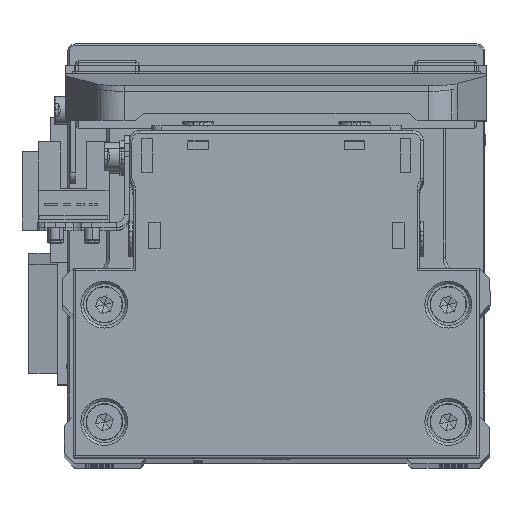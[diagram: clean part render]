
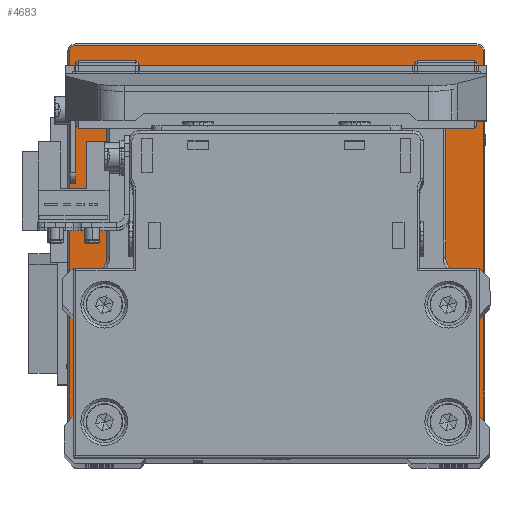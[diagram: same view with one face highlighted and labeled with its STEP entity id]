
A CAD part, top view. The second image highlights one B-rep face of the part: STEP entity #4683.
In plain terms, the highlighted planar face has unit normal (0, 0, 1) as drawn and (0, 1, 0) by its records, which use the part's own axes.
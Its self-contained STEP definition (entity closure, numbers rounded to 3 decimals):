
#729 = CARTESIAN_POINT ( 'NONE',  ( -38.5, 12., -39.7 ) ) ;
#967 = FACE_BOUND ( 'NONE', #16272, .T. ) ;
#2216 = CIRCLE ( 'NONE', #24427, 1.2 ) ;
#2485 = AXIS2_PLACEMENT_3D ( 'NONE', #33350, #6136, #18259 ) ;
#3037 = ORIENTED_EDGE ( 'NONE', *, *, #15661, .T. ) ;
#3344 = CARTESIAN_POINT ( 'NONE',  ( -39.7, 12., -38.5 ) ) ;
#3491 = EDGE_CURVE ( 'NONE', #6285, #18880, #26692, .T. ) ;
#3573 = ORIENTED_EDGE ( 'NONE', *, *, #37720, .F. ) ;
#3680 = ORIENTED_EDGE ( 'NONE', *, *, #18088, .T. ) ;
#4091 = EDGE_CURVE ( 'NONE', #21714, #4744, #6184, .T. ) ;
#4337 = ORIENTED_EDGE ( 'NONE', *, *, #17740, .F. ) ;
#4683 = ADVANCED_FACE ( 'NONE', ( #28162, #967 ), #13084, .F. ) ;
#4744 = VERTEX_POINT ( 'NONE', #35249 ) ;
#4763 = CARTESIAN_POINT ( 'NONE',  ( -38.5, 12., -38.5 ) ) ;
#5676 = DIRECTION ( 'NONE',  ( 0., 1., 0. ) ) ;
#5947 = VERTEX_POINT ( 'NONE', #21427 ) ;
#6128 = CARTESIAN_POINT ( 'NONE',  ( 0., 12., 39.7 ) ) ;
#6136 = DIRECTION ( 'NONE',  ( 0., 1., 0. ) ) ;
#6157 = CARTESIAN_POINT ( 'NONE',  ( 0., 12., 0. ) ) ;
#6184 = LINE ( 'NONE', #18307, #27260 ) ;
#6285 = VERTEX_POINT ( 'NONE', #17201 ) ;
#7825 = CARTESIAN_POINT ( 'NONE',  ( 0., 12., -39.7 ) ) ;
#9669 = CARTESIAN_POINT ( 'NONE',  ( 38.5, 12., 38.5 ) ) ;
#10097 = DIRECTION ( 'NONE',  ( 0., 0., -1. ) ) ;
#10303 = AXIS2_PLACEMENT_3D ( 'NONE', #32886, #5676, #17792 ) ;
#10398 = ORIENTED_EDGE ( 'NONE', *, *, #4091, .T. ) ;
#10671 = ORIENTED_EDGE ( 'NONE', *, *, #22791, .T. ) ;
#11252 = VERTEX_POINT ( 'NONE', #33697 ) ;
#11273 = CIRCLE ( 'NONE', #33485, 1.2 ) ;
#11281 = EDGE_CURVE ( 'NONE', #18302, #6285, #11273, .T. ) ;
#11319 = VERTEX_POINT ( 'NONE', #729 ) ;
#11614 = DIRECTION ( 'NONE',  ( 0., 0., -1. ) ) ;
#13084 = PLANE ( 'NONE',  #26857 ) ;
#13153 = CARTESIAN_POINT ( 'NONE',  ( 38.5, 12., -38.5 ) ) ;
#14024 = CIRCLE ( 'NONE', #36241, 1.2 ) ;
#15661 = EDGE_CURVE ( 'NONE', #18880, #11252, #14024, .T. ) ;
#16272 = EDGE_LOOP ( 'NONE', ( #4337, #3573 ) ) ;
#16879 = DIRECTION ( 'NONE',  ( 0., 1., 0. ) ) ;
#17080 = VECTOR ( 'NONE', #18248, 1000. ) ;
#17201 = CARTESIAN_POINT ( 'NONE',  ( 39.7, 12., 38.5 ) ) ;
#17740 = EDGE_CURVE ( 'NONE', #18371, #19907, #27435, .T. ) ;
#17792 = DIRECTION ( 'NONE',  ( 0., 0., 1. ) ) ;
#17807 = CIRCLE ( 'NONE', #22879, 20.5 ) ;
#18088 = EDGE_CURVE ( 'NONE', #11252, #11319, #35032, .T. ) ;
#18248 = DIRECTION ( 'NONE',  ( 1., 0., 0. ) ) ;
#18259 = DIRECTION ( 'NONE',  ( 0., 0., -1. ) ) ;
#18278 = DIRECTION ( 'NONE',  ( 0., 1., 0. ) ) ;
#18302 = VERTEX_POINT ( 'NONE', #27266 ) ;
#18307 = CARTESIAN_POINT ( 'NONE',  ( -39.7, 12., 0. ) ) ;
#18371 = VERTEX_POINT ( 'NONE', #30639 ) ;
#18880 = VERTEX_POINT ( 'NONE', #34161 ) ;
#19605 = CIRCLE ( 'NONE', #2485, 1.2 ) ;
#19616 = ORIENTED_EDGE ( 'NONE', *, *, #21687, .T. ) ;
#19907 = VERTEX_POINT ( 'NONE', #20097 ) ;
#19944 = DIRECTION ( 'NONE',  ( -1., 0., 0. ) ) ;
#20097 = CARTESIAN_POINT ( 'NONE',  ( 0., 12., -20.5 ) ) ;
#20569 = EDGE_CURVE ( 'NONE', #5947, #18302, #33340, .T. ) ;
#20891 = VECTOR ( 'NONE', #11614, 1000. ) ;
#21427 = CARTESIAN_POINT ( 'NONE',  ( -38.5, 12., 39.7 ) ) ;
#21687 = EDGE_CURVE ( 'NONE', #4744, #5947, #19605, .T. ) ;
#21714 = VERTEX_POINT ( 'NONE', #3344 ) ;
#21783 = DIRECTION ( 'NONE',  ( 0., 1., 0. ) ) ;
#22553 = ORIENTED_EDGE ( 'NONE', *, *, #3491, .T. ) ;
#22791 = EDGE_CURVE ( 'NONE', #11319, #21714, #2216, .T. ) ;
#22879 = AXIS2_PLACEMENT_3D ( 'NONE', #6157, #18278, #30389 ) ;
#23818 = ORIENTED_EDGE ( 'NONE', *, *, #11281, .T. ) ;
#24427 = AXIS2_PLACEMENT_3D ( 'NONE', #4763, #16879, #28992 ) ;
#25181 = CARTESIAN_POINT ( 'NONE',  ( 0., 12., 0. ) ) ;
#25253 = DIRECTION ( 'NONE',  ( 0., 1., 0. ) ) ;
#26692 = LINE ( 'NONE', #38835, #20891 ) ;
#26857 = AXIS2_PLACEMENT_3D ( 'NONE', #25181, #37307, #10097 ) ;
#27172 = ORIENTED_EDGE ( 'NONE', *, *, #20569, .T. ) ;
#27260 = VECTOR ( 'NONE', #30416, 1000. ) ;
#27266 = CARTESIAN_POINT ( 'NONE',  ( 38.5, 12., 39.7 ) ) ;
#27435 = CIRCLE ( 'NONE', #10303, 20.5 ) ;
#28162 = FACE_OUTER_BOUND ( 'NONE', #33713, .T. ) ;
#28992 = DIRECTION ( 'NONE',  ( 0., 0., -1. ) ) ;
#30389 = DIRECTION ( 'NONE',  ( 0., 0., 1. ) ) ;
#30416 = DIRECTION ( 'NONE',  ( 0., 0., 1. ) ) ;
#30639 = CARTESIAN_POINT ( 'NONE',  ( 0., 12., 20.5 ) ) ;
#32886 = CARTESIAN_POINT ( 'NONE',  ( 0., 12., 0. ) ) ;
#33340 = LINE ( 'NONE', #6128, #17080 ) ;
#33350 = CARTESIAN_POINT ( 'NONE',  ( -38.5, 12., 38.5 ) ) ;
#33485 = AXIS2_PLACEMENT_3D ( 'NONE', #9669, #21783, #33895 ) ;
#33697 = CARTESIAN_POINT ( 'NONE',  ( 38.5, 12., -39.7 ) ) ;
#33713 = EDGE_LOOP ( 'NONE', ( #3037, #3680, #10671, #10398, #19616, #27172, #23818, #22553 ) ) ;
#33895 = DIRECTION ( 'NONE',  ( 0., 0., -1. ) ) ;
#34161 = CARTESIAN_POINT ( 'NONE',  ( 39.7, 12., -38.5 ) ) ;
#35032 = LINE ( 'NONE', #7825, #36351 ) ;
#35249 = CARTESIAN_POINT ( 'NONE',  ( -39.7, 12., 38.5 ) ) ;
#36241 = AXIS2_PLACEMENT_3D ( 'NONE', #13153, #25253, #37379 ) ;
#36351 = VECTOR ( 'NONE', #19944, 1000. ) ;
#37307 = DIRECTION ( 'NONE',  ( 0., -1., 0. ) ) ;
#37379 = DIRECTION ( 'NONE',  ( 0., 0., -1. ) ) ;
#37720 = EDGE_CURVE ( 'NONE', #19907, #18371, #17807, .T. ) ;
#38835 = CARTESIAN_POINT ( 'NONE',  ( 39.7, 12., 0. ) ) ;
